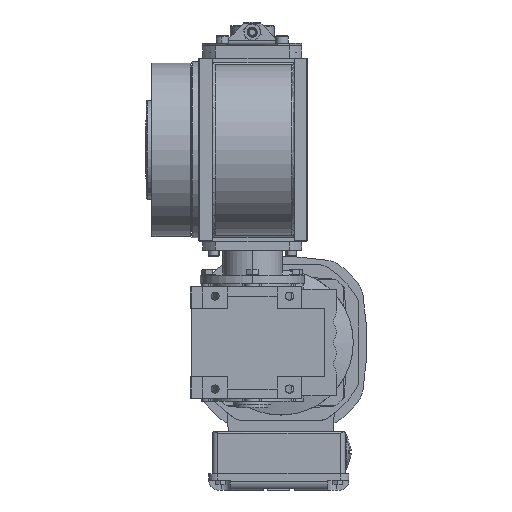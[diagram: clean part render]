
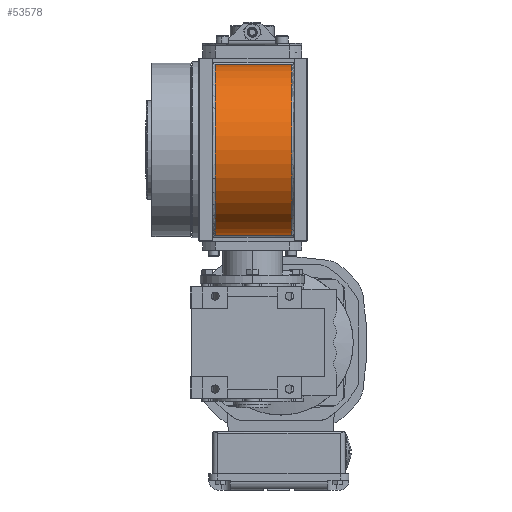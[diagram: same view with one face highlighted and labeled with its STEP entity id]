
A CAD part, left-side view. The second image highlights one B-rep face of the part: STEP entity #53578.
In plain terms, the highlighted cylindrical face has radius 69 mm (diameter 138 mm), a partial arc.
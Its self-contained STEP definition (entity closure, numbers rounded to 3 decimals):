
#161 = EDGE_LOOP ( 'NONE', ( #29816, #3399, #1154, #29721 ) ) ;
#413 = AXIS2_PLACEMENT_3D ( 'NONE', #43459, #5350, #47826 ) ;
#1154 = ORIENTED_EDGE ( 'NONE', *, *, #21539, .T. ) ;
#1750 = DIRECTION ( 'NONE',  ( 0., -1., 0. ) ) ;
#2083 = DIRECTION ( 'NONE',  ( 0., -1., 0. ) ) ;
#3399 = ORIENTED_EDGE ( 'NONE', *, *, #12359, .T. ) ;
#5350 = DIRECTION ( 'NONE',  ( 0., 1., 0. ) ) ;
#5976 = CARTESIAN_POINT ( 'NONE',  ( -42.511, -53.238, -28.281 ) ) ;
#6483 = CARTESIAN_POINT ( 'NONE',  ( -38.624, 10.762, 40.609 ) ) ;
#6814 = CARTESIAN_POINT ( 'NONE',  ( -42.511, 10.762, 109.5 ) ) ;
#8392 = VERTEX_POINT ( 'NONE', #57372 ) ;
#12359 = EDGE_CURVE ( 'NONE', #32085, #40875, #54802, .T. ) ;
#12423 = VECTOR ( 'NONE', #40872, 1000. ) ;
#15057 = CARTESIAN_POINT ( 'NONE',  ( -38.624, 8.762, 40.609 ) ) ;
#21539 = EDGE_CURVE ( 'NONE', #40875, #8392, #37009, .T. ) ;
#25884 = DIRECTION ( 'NONE',  ( 0., 0., -1. ) ) ;
#29388 = CIRCLE ( 'NONE', #413, 69. ) ;
#29721 = ORIENTED_EDGE ( 'NONE', *, *, #53658, .T. ) ;
#29816 = ORIENTED_EDGE ( 'NONE', *, *, #40369, .T. ) ;
#31013 = AXIS2_PLACEMENT_3D ( 'NONE', #6483, #1750, #25884 ) ;
#32033 = AXIS2_PLACEMENT_3D ( 'NONE', #15057, #2083, #59219 ) ;
#32085 = VERTEX_POINT ( 'NONE', #35439 ) ;
#33000 = VECTOR ( 'NONE', #57266, 1000. ) ;
#34218 = LINE ( 'NONE', #52890, #33000 ) ;
#34908 = FACE_OUTER_BOUND ( 'NONE', #161, .T. ) ;
#35439 = CARTESIAN_POINT ( 'NONE',  ( -42.511, -53.238, 109.5 ) ) ;
#37009 = CIRCLE ( 'NONE', #32033, 69. ) ;
#40369 = EDGE_CURVE ( 'NONE', #41240, #32085, #29388, .T. ) ;
#40872 = DIRECTION ( 'NONE',  ( 0., 1., 0. ) ) ;
#40875 = VERTEX_POINT ( 'NONE', #61087 ) ;
#41240 = VERTEX_POINT ( 'NONE', #5976 ) ;
#43459 = CARTESIAN_POINT ( 'NONE',  ( -38.624, -53.238, 40.609 ) ) ;
#47826 = DIRECTION ( 'NONE',  ( 0., 0., 1. ) ) ;
#52890 = CARTESIAN_POINT ( 'NONE',  ( -42.511, 10.762, -28.281 ) ) ;
#53578 = ADVANCED_FACE ( 'NONE', ( #34908 ), #59187, .T. ) ;
#53658 = EDGE_CURVE ( 'NONE', #8392, #41240, #34218, .T. ) ;
#54802 = LINE ( 'NONE', #6814, #12423 ) ;
#57266 = DIRECTION ( 'NONE',  ( 0., -1., 0. ) ) ;
#57372 = CARTESIAN_POINT ( 'NONE',  ( -42.511, 8.762, -28.281 ) ) ;
#59187 = CYLINDRICAL_SURFACE ( 'NONE', #31013, 69. ) ;
#59219 = DIRECTION ( 'NONE',  ( 0., 0., 1. ) ) ;
#61087 = CARTESIAN_POINT ( 'NONE',  ( -42.511, 8.762, 109.5 ) ) ;
